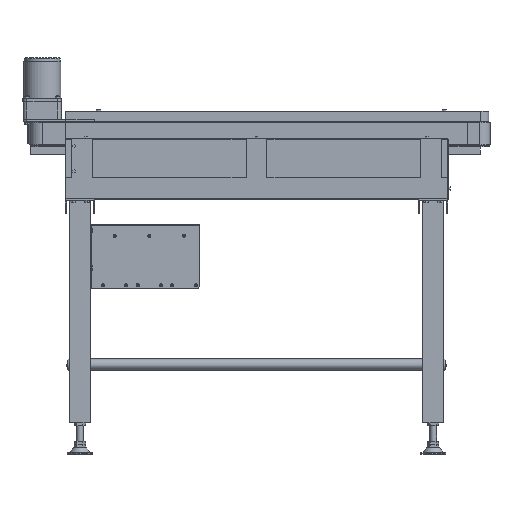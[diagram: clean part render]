
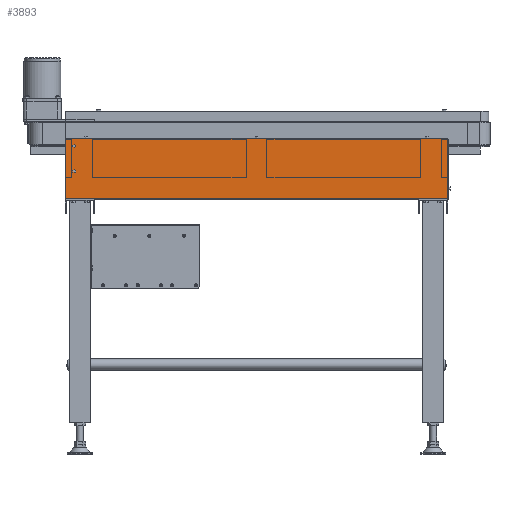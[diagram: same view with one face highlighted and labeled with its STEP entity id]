
A CAD part, top view. The second image highlights one B-rep face of the part: STEP entity #3893.
In plain terms, the highlighted planar face has unit normal (0, 0, 1).
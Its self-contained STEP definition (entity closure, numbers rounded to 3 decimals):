
#3893=ADVANCED_FACE('',(#11299,#11300,#11301),#11298,.T.);
#11298=PLANE('',#35364);
#11299=FACE_OUTER_BOUND('',#35365,.T.);
#11300=FACE_BOUND('',#35366,.T.);
#11301=FACE_BOUND('',#35367,.T.);
#35361=CARTESIAN_POINT('',(-10.,-150.,252.));
#35362=DIRECTION('',(0.,0.,1.));
#35363=DIRECTION('',(1.,0.,0.));
#35364=AXIS2_PLACEMENT_3D('',#35361,#35362,#35363);
#35365=EDGE_LOOP('',(#51482,#51483,#51484,#51485));
#35366=EDGE_LOOP('',(#51486,#51487,#51488,#51489,#51490,#51491));
#35367=EDGE_LOOP('',(#51492,#51493,#51494,#51495,#51496,#51497));
#51482=ORIENTED_EDGE('',*,*,#63556,.F.);
#51483=ORIENTED_EDGE('',*,*,#63557,.T.);
#51484=ORIENTED_EDGE('',*,*,#63558,.T.);
#51485=ORIENTED_EDGE('',*,*,#63559,.F.);
#51486=ORIENTED_EDGE('',*,*,#63560,.F.);
#51487=ORIENTED_EDGE('',*,*,#63561,.F.);
#51488=ORIENTED_EDGE('',*,*,#63562,.F.);
#51489=ORIENTED_EDGE('',*,*,#63563,.F.);
#51490=ORIENTED_EDGE('',*,*,#63564,.F.);
#51491=ORIENTED_EDGE('',*,*,#63565,.F.);
#51492=ORIENTED_EDGE('',*,*,#63566,.F.);
#51493=ORIENTED_EDGE('',*,*,#63567,.F.);
#51494=ORIENTED_EDGE('',*,*,#63568,.F.);
#51495=ORIENTED_EDGE('',*,*,#63569,.F.);
#51496=ORIENTED_EDGE('',*,*,#63570,.F.);
#51497=ORIENTED_EDGE('',*,*,#63571,.F.);
#63556=EDGE_CURVE('',#78922,#78923,#78924,.T.);
#63557=EDGE_CURVE('',#78922,#78930,#78931,.T.);
#63558=EDGE_CURVE('',#78930,#78937,#78938,.T.);
#63559=EDGE_CURVE('',#78923,#78937,#78944,.T.);
#63560=EDGE_CURVE('',#78950,#78951,#78952,.T.);
#63561=EDGE_CURVE('',#78958,#78950,#78959,.T.);
#63562=EDGE_CURVE('',#78965,#78958,#78966,.T.);
#63563=EDGE_CURVE('',#78972,#78965,#78973,.T.);
#63564=EDGE_CURVE('',#78979,#78972,#78980,.T.);
#63565=EDGE_CURVE('',#78951,#78979,#78986,.T.);
#63566=EDGE_CURVE('',#78992,#78993,#78994,.T.);
#63567=EDGE_CURVE('',#79000,#78992,#79001,.T.);
#63568=EDGE_CURVE('',#79007,#79000,#79008,.T.);
#63569=EDGE_CURVE('',#79014,#79007,#79015,.T.);
#63570=EDGE_CURVE('',#79021,#79014,#79022,.T.);
#63571=EDGE_CURVE('',#78993,#79021,#79028,.T.);
#78922=VERTEX_POINT('',#119551);
#78923=VERTEX_POINT('',#119552);
#78924=LINE('',#119553,#119554);
#78930=VERTEX_POINT('',#119556);
#78931=LINE('',#119557,#119558);
#78937=VERTEX_POINT('',#119560);
#78938=LINE('',#119561,#119562);
#78944=LINE('',#119564,#119565);
#78950=VERTEX_POINT('',#119567);
#78951=VERTEX_POINT('',#119568);
#78952=LINE('',#119569,#119570);
#78958=VERTEX_POINT('',#119572);
#78959=LINE('',#119573,#119574);
#78965=VERTEX_POINT('',#119576);
#78966=LINE('',#119577,#119578);
#78972=VERTEX_POINT('',#119580);
#78973=LINE('',#119581,#119582);
#78979=VERTEX_POINT('',#119584);
#78980=LINE('',#119585,#119586);
#78986=LINE('',#119588,#119589);
#78992=VERTEX_POINT('',#119591);
#78993=VERTEX_POINT('',#119592);
#78994=LINE('',#119593,#119594);
#79000=VERTEX_POINT('',#119596);
#79001=LINE('',#119597,#119598);
#79007=VERTEX_POINT('',#119600);
#79008=LINE('',#119601,#119602);
#79014=VERTEX_POINT('',#119604);
#79015=LINE('',#119605,#119606);
#79021=VERTEX_POINT('',#119608);
#79022=LINE('',#119609,#119610);
#79028=LINE('',#119612,#119613);
#119551=CARTESIAN_POINT('',(915.,-140.,252.));
#119552=CARTESIAN_POINT('',(0.,-140.,252.));
#119553=CARTESIAN_POINT('',(915.,-140.,252.));
#119554=VECTOR('',#119555,915.);
#119555=DIRECTION('',(-1.,0.,0.));
#119556=CARTESIAN_POINT('',(915.,4.,252.));
#119557=CARTESIAN_POINT('',(915.,-140.,252.));
#119558=VECTOR('',#119559,144.);
#119559=DIRECTION('',(0.,1.,0.));
#119560=CARTESIAN_POINT('',(0.,4.,252.));
#119561=CARTESIAN_POINT('',(915.,4.,252.));
#119562=VECTOR('',#119563,915.);
#119563=DIRECTION('',(-1.,0.,0.));
#119564=CARTESIAN_POINT('',(0.,-140.,252.));
#119565=VECTOR('',#119566,144.);
#119566=DIRECTION('',(0.,1.,0.));
#119567=CARTESIAN_POINT('',(18.5,-16.021,252.));
#119568=CARTESIAN_POINT('',(22.,-18.041,252.));
#119569=CARTESIAN_POINT('',(18.5,-16.021,252.));
#119570=VECTOR('',#119571,4.041);
#119571=DIRECTION('',(0.866,-0.5,0.));
#119572=CARTESIAN_POINT('',(18.5,-11.979,252.));
#119573=CARTESIAN_POINT('',(18.5,-11.979,252.));
#119574=VECTOR('',#119575,4.041);
#119575=DIRECTION('',(0.,-1.,0.));
#119576=CARTESIAN_POINT('',(22.,-9.959,252.));
#119577=CARTESIAN_POINT('',(22.,-9.959,252.));
#119578=VECTOR('',#119579,4.041);
#119579=DIRECTION('',(-0.866,-0.5,0.));
#119580=CARTESIAN_POINT('',(25.5,-11.979,252.));
#119581=CARTESIAN_POINT('',(25.5,-11.979,252.));
#119582=VECTOR('',#119583,4.041);
#119583=DIRECTION('',(-0.866,0.5,0.));
#119584=CARTESIAN_POINT('',(25.5,-16.021,252.));
#119585=CARTESIAN_POINT('',(25.5,-16.021,252.));
#119586=VECTOR('',#119587,4.041);
#119587=DIRECTION('',(0.,1.,0.));
#119588=CARTESIAN_POINT('',(22.,-18.041,252.));
#119589=VECTOR('',#119590,4.041);
#119590=DIRECTION('',(0.866,0.5,0.));
#119591=CARTESIAN_POINT('',(18.5,-76.021,252.));
#119592=CARTESIAN_POINT('',(22.,-78.041,252.));
#119593=CARTESIAN_POINT('',(18.5,-76.021,252.));
#119594=VECTOR('',#119595,4.041);
#119595=DIRECTION('',(0.866,-0.5,0.));
#119596=CARTESIAN_POINT('',(18.5,-71.979,252.));
#119597=CARTESIAN_POINT('',(18.5,-71.979,252.));
#119598=VECTOR('',#119599,4.041);
#119599=DIRECTION('',(0.,-1.,0.));
#119600=CARTESIAN_POINT('',(22.,-69.959,252.));
#119601=CARTESIAN_POINT('',(22.,-69.959,252.));
#119602=VECTOR('',#119603,4.041);
#119603=DIRECTION('',(-0.866,-0.5,0.));
#119604=CARTESIAN_POINT('',(25.5,-71.979,252.));
#119605=CARTESIAN_POINT('',(25.5,-71.979,252.));
#119606=VECTOR('',#119607,4.041);
#119607=DIRECTION('',(-0.866,0.5,0.));
#119608=CARTESIAN_POINT('',(25.5,-76.021,252.));
#119609=CARTESIAN_POINT('',(25.5,-76.021,252.));
#119610=VECTOR('',#119611,4.041);
#119611=DIRECTION('',(0.,1.,0.));
#119612=CARTESIAN_POINT('',(22.,-78.041,252.));
#119613=VECTOR('',#119614,4.041);
#119614=DIRECTION('',(0.866,0.5,0.));
